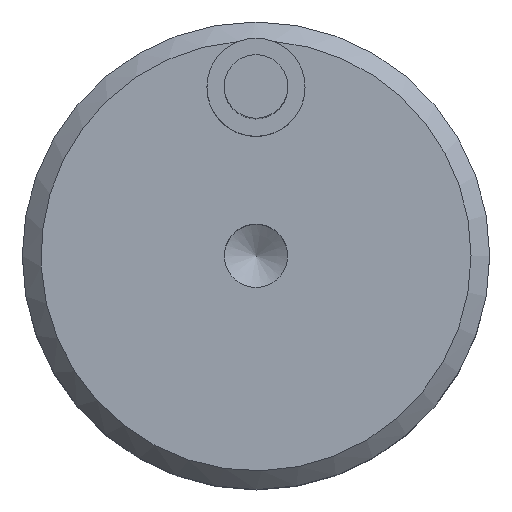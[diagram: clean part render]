
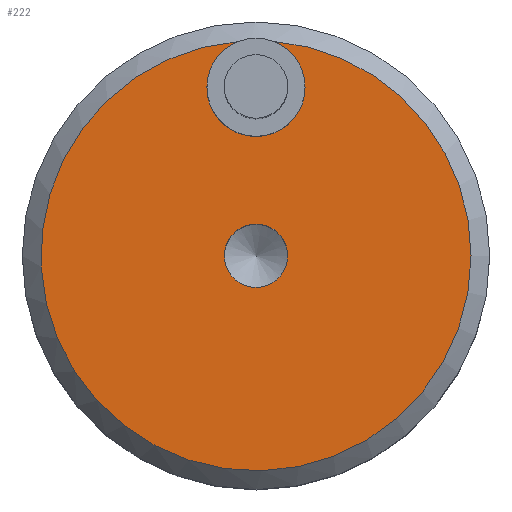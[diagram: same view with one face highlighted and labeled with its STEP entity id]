
A CAD part, top view. The second image highlights one B-rep face of the part: STEP entity #222.
In plain terms, the highlighted planar face has unit normal (0, 0, 1).
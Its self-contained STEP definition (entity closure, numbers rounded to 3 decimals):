
#29=FACE_BOUND('',#71,.T.);
#39=PLANE('',#279);
#52=FACE_OUTER_BOUND('',#70,.T.);
#70=EDGE_LOOP('',(#188,#189,#190,#191));
#71=EDGE_LOOP('',(#192));
#95=CIRCLE('',#258,5.25);
#97=CIRCLE('',#260,5.25);
#104=CIRCLE('',#274,23.);
#107=CIRCLE('',#277,23.);
#108=CIRCLE('',#280,3.39);
#113=VERTEX_POINT('',#384);
#114=VERTEX_POINT('',#386);
#115=VERTEX_POINT('',#388);
#121=VERTEX_POINT('',#411);
#124=VERTEX_POINT('',#422);
#131=EDGE_CURVE('',#114,#113,#95,.T.);
#133=EDGE_CURVE('',#113,#115,#97,.T.);
#142=EDGE_CURVE('',#114,#121,#104,.T.);
#146=EDGE_CURVE('',#121,#115,#107,.T.);
#148=EDGE_CURVE('',#124,#124,#108,.T.);
#188=ORIENTED_EDGE('',*,*,#131,.T.);
#189=ORIENTED_EDGE('',*,*,#133,.T.);
#190=ORIENTED_EDGE('',*,*,#146,.F.);
#191=ORIENTED_EDGE('',*,*,#142,.F.);
#192=ORIENTED_EDGE('',*,*,#148,.T.);
#222=ADVANCED_FACE('',(#52,#29),#39,.T.);
#258=AXIS2_PLACEMENT_3D('',#387,#302,#303);
#260=AXIS2_PLACEMENT_3D('',#390,#306,#307);
#274=AXIS2_PLACEMENT_3D('',#412,#336,#337);
#277=AXIS2_PLACEMENT_3D('',#418,#343,#344);
#279=AXIS2_PLACEMENT_3D('',#421,#348,#349);
#280=AXIS2_PLACEMENT_3D('',#423,#350,#351);
#302=DIRECTION('center_axis',(0.,0.,-1.));
#303=DIRECTION('ref_axis',(-1.,0.,0.));
#306=DIRECTION('center_axis',(0.,0.,-1.));
#307=DIRECTION('ref_axis',(-1.,0.,0.));
#336=DIRECTION('center_axis',(0.,0.,-1.));
#337=DIRECTION('ref_axis',(-1.,0.,0.));
#343=DIRECTION('center_axis',(0.,0.,-1.));
#344=DIRECTION('ref_axis',(-1.,0.,0.));
#348=DIRECTION('center_axis',(0.,0.,1.));
#349=DIRECTION('ref_axis',(1.,0.,0.));
#350=DIRECTION('center_axis',(0.,0.,-1.));
#351=DIRECTION('ref_axis',(1.,0.,0.));
#384=CARTESIAN_POINT('',(5.25,18.,30.));
#386=CARTESIAN_POINT('',(1.808,22.929,30.));
#387=CARTESIAN_POINT('Origin',(0.,18.,30.));
#388=CARTESIAN_POINT('',(-1.808,22.929,30.));
#390=CARTESIAN_POINT('Origin',(0.,18.,30.));
#411=CARTESIAN_POINT('',(23.,0.,30.));
#412=CARTESIAN_POINT('Origin',(0.,0.,30.));
#418=CARTESIAN_POINT('Origin',(0.,0.,30.));
#421=CARTESIAN_POINT('Origin',(0.,0.,30.));
#422=CARTESIAN_POINT('',(-3.39,0.,30.));
#423=CARTESIAN_POINT('Origin',(0.,0.,30.));
